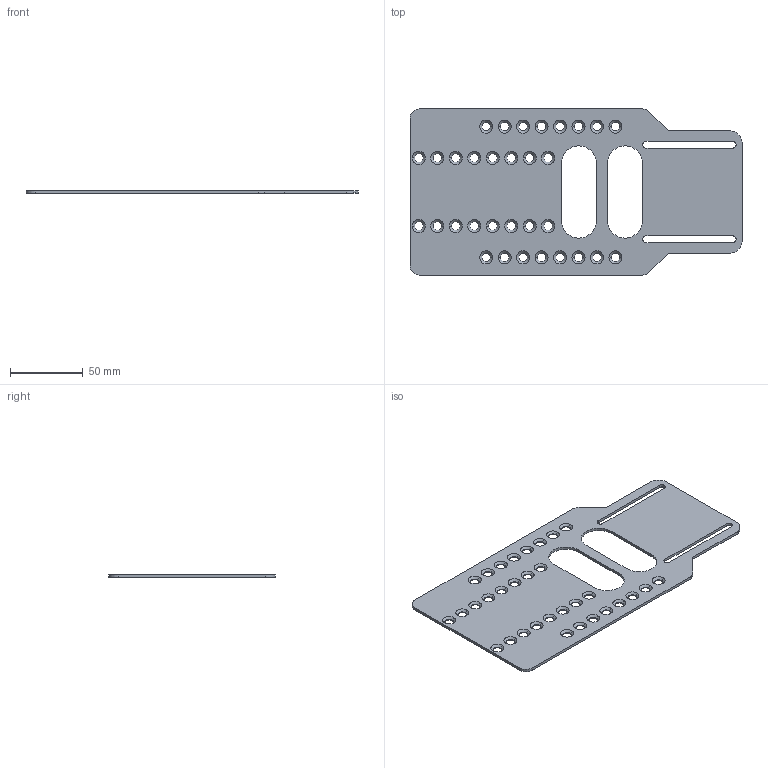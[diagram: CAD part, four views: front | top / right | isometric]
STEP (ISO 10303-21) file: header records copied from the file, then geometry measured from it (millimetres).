
FILE_DESCRIPTION((''),'2;1');
FILE_NAME('BKT_SIDE_PLT_RACK_MOUNT_SHORT','2018-06-06T',('talbott'),(''),'CREO PARAMETRIC BY PTC INC, 2017480','CREO PARAMETRIC BY PTC INC, 2017480','');
FILE_SCHEMA(('AUTOMOTIVE_DESIGN { 1 0 10303 214 1 1 1 1 }'));
Length unit declared in the file: millimetre
Products named in the file (1): BKT_SIDE_PLT_RACK_MOUNT_SHORT
Bounding box: 228.35 x 114.3 x 1.9 mm (x, y, z)
Volume: 37203.3 mm3; surface area: 43025.5 mm2
Topology: 1 solids, 1 shells, 164 faces, 422 edges, 260 vertices
Faces by surface type: cylinder 80, cone 64, plane 20
Entity records: 5613 total; most frequent: DIRECTION 974, CARTESIAN_POINT 848, ORIENTED_EDGE 844, EDGE_CURVE 422, AXIS2_PLACEMENT_3D 388, VERTEX_POINT 260, EDGE_LOOP 236, CIRCLE 224
